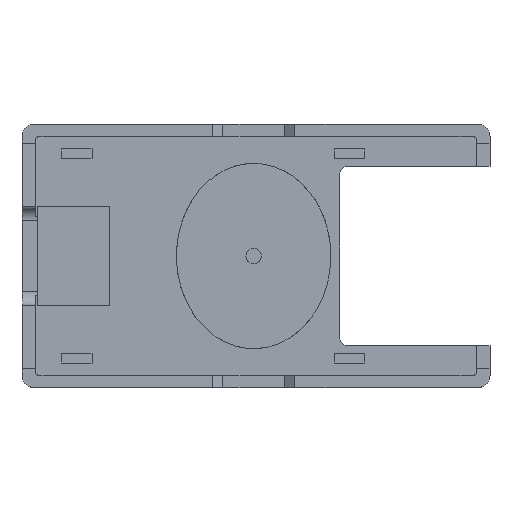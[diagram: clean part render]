
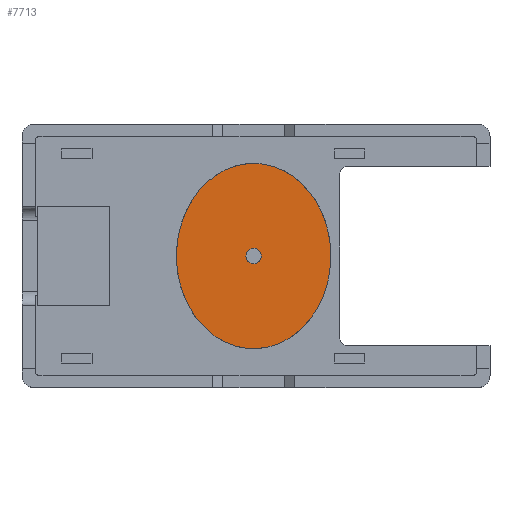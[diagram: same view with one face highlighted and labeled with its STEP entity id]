
A CAD part, top view. The second image highlights one B-rep face of the part: STEP entity #7713.
In plain terms, the highlighted planar face has unit normal (0, 0, 1).
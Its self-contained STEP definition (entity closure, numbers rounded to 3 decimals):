
#4435 = SURFACE_OF_LINEAR_EXTRUSION('',#4436,#4441);
#4436 = ELLIPSE('',#4437,9.,7.5);
#4437 = AXIS2_PLACEMENT_3D('',#4438,#4439,#4440);
#4438 = CARTESIAN_POINT('',(22.5,12.8,1.01));
#4439 = DIRECTION('',(0.,0.,1.));
#4440 = DIRECTION('',(0.,1.,0.));
#4441 = VECTOR('',#4442,1.);
#4442 = DIRECTION('',(0.,0.,1.));
#7015 = VERTEX_POINT('',#7016);
#7016 = CARTESIAN_POINT('',(22.5,21.8,0.4));
#7037 = EDGE_CURVE('',#7015,#7015,#7038,.T.);
#7038 = SURFACE_CURVE('',#7039,(#7044,#7051),.PCURVE_S1.);
#7039 = ELLIPSE('',#7040,9.,7.5);
#7040 = AXIS2_PLACEMENT_3D('',#7041,#7042,#7043);
#7041 = CARTESIAN_POINT('',(22.5,12.8,0.4));
#7042 = DIRECTION('',(0.,0.,1.));
#7043 = DIRECTION('',(0.,1.,0.));
#7044 = PCURVE('',#4435,#7045);
#7045 = DEFINITIONAL_REPRESENTATION('',(#7046),#7050);
#7046 = LINE('',#7047,#7048);
#7047 = CARTESIAN_POINT('',(0.,-0.61));
#7048 = VECTOR('',#7049,1.);
#7049 = DIRECTION('',(1.,0.));
#7050 = ( GEOMETRIC_REPRESENTATION_CONTEXT(2) 
PARAMETRIC_REPRESENTATION_CONTEXT() REPRESENTATION_CONTEXT('2D SPACE',''
  ) );
#7051 = PCURVE('',#7052,#7057);
#7052 = PLANE('',#7053);
#7053 = AXIS2_PLACEMENT_3D('',#7054,#7055,#7056);
#7054 = CARTESIAN_POINT('',(22.5,13.009,0.4));
#7055 = DIRECTION('',(0.,0.,-1.));
#7056 = DIRECTION('',(-1.,-0.,-0.));
#7057 = DEFINITIONAL_REPRESENTATION('',(#7058),#7066);
#7058 = ( BOUNDED_CURVE() B_SPLINE_CURVE(2,(#7059,#7060,#7061,#7062,
#7063,#7064,#7065),.UNSPECIFIED.,.T.,.F.) B_SPLINE_CURVE_WITH_KNOTS((1,2
    ,2,2,2,1),(-2.094,0.,2.094,4.189,
6.283,8.378),.UNSPECIFIED.) CURVE() 
GEOMETRIC_REPRESENTATION_ITEM() RATIONAL_B_SPLINE_CURVE((1.,0.5,1.,0.5,
1.,0.5,1.)) REPRESENTATION_ITEM('') );
#7059 = CARTESIAN_POINT('',(0.,8.791));
#7060 = CARTESIAN_POINT('',(12.99,8.791));
#7061 = CARTESIAN_POINT('',(6.495,-4.709));
#7062 = CARTESIAN_POINT('',(0.,-18.209));
#7063 = CARTESIAN_POINT('',(-6.495,-4.709));
#7064 = CARTESIAN_POINT('',(-12.99,8.791));
#7065 = CARTESIAN_POINT('',(0.,8.791));
#7066 = ( GEOMETRIC_REPRESENTATION_CONTEXT(2) 
PARAMETRIC_REPRESENTATION_CONTEXT() REPRESENTATION_CONTEXT('2D SPACE',''
  ) );
#7713 = ADVANCED_FACE('',(#7714,#7717),#7052,.F.);
#7714 = FACE_BOUND('',#7715,.T.);
#7715 = EDGE_LOOP('',(#7716));
#7716 = ORIENTED_EDGE('',*,*,#7037,.T.);
#7717 = FACE_BOUND('',#7718,.T.);
#7718 = EDGE_LOOP('',(#7719));
#7719 = ORIENTED_EDGE('',*,*,#7720,.T.);
#7720 = EDGE_CURVE('',#7721,#7721,#7723,.T.);
#7721 = VERTEX_POINT('',#7722);
#7722 = CARTESIAN_POINT('',(23.25,12.8,0.4));
#7723 = SURFACE_CURVE('',#7724,(#7729,#7736),.PCURVE_S1.);
#7724 = CIRCLE('',#7725,0.75);
#7725 = AXIS2_PLACEMENT_3D('',#7726,#7727,#7728);
#7726 = CARTESIAN_POINT('',(22.5,12.8,0.4));
#7727 = DIRECTION('',(0.,0.,-1.));
#7728 = DIRECTION('',(1.,0.,0.));
#7729 = PCURVE('',#7052,#7730);
#7730 = DEFINITIONAL_REPRESENTATION('',(#7731),#7735);
#7731 = CIRCLE('',#7732,0.75);
#7732 = AXIS2_PLACEMENT_2D('',#7733,#7734);
#7733 = CARTESIAN_POINT('',(0.,-0.209));
#7734 = DIRECTION('',(-1.,0.));
#7735 = ( GEOMETRIC_REPRESENTATION_CONTEXT(2) 
PARAMETRIC_REPRESENTATION_CONTEXT() REPRESENTATION_CONTEXT('2D SPACE',''
  ) );
#7736 = PCURVE('',#7737,#7742);
#7737 = CYLINDRICAL_SURFACE('',#7738,0.75);
#7738 = AXIS2_PLACEMENT_3D('',#7739,#7740,#7741);
#7739 = CARTESIAN_POINT('',(22.5,12.8,1.9));
#7740 = DIRECTION('',(0.,0.,1.));
#7741 = DIRECTION('',(1.,0.,0.));
#7742 = DEFINITIONAL_REPRESENTATION('',(#7743),#7747);
#7743 = LINE('',#7744,#7745);
#7744 = CARTESIAN_POINT('',(6.283,-1.5));
#7745 = VECTOR('',#7746,1.);
#7746 = DIRECTION('',(-1.,0.));
#7747 = ( GEOMETRIC_REPRESENTATION_CONTEXT(2) 
PARAMETRIC_REPRESENTATION_CONTEXT() REPRESENTATION_CONTEXT('2D SPACE',''
  ) );
